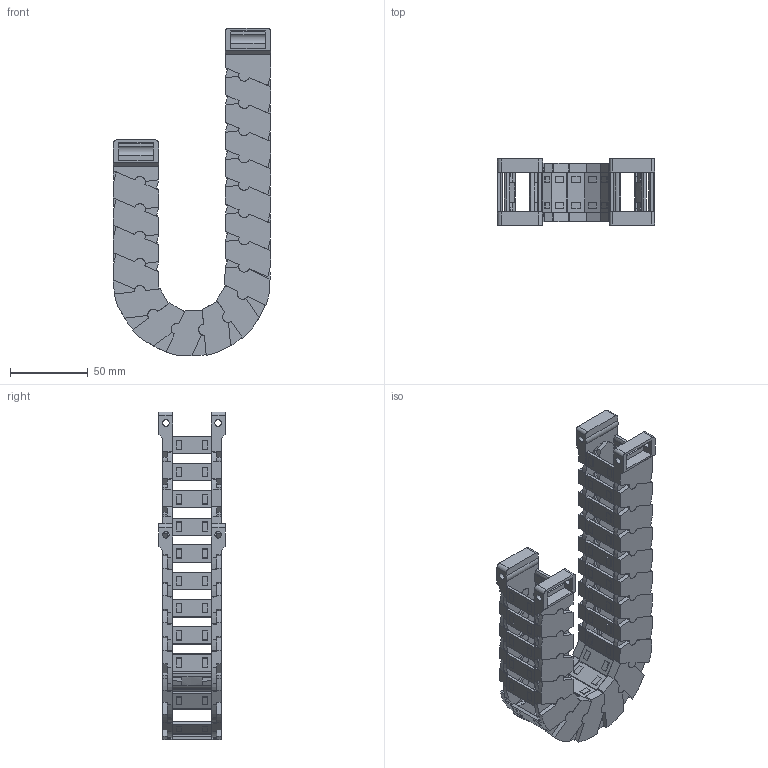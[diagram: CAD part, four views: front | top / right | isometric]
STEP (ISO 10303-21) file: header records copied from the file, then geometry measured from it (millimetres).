
FILE_DESCRIPTION(/* description */ (''),/* implementation_level */ '2;1');
FILE_NAME(/* name */ 'JY22-25-R35.stp',/* time_stamp */ '2026-06-20T14:12:24+08:00',/* author */ (''),/* organization */ (''),/* preprocessor_version */ 'ST-DEVELOPER v19.4',/* originating_system */ 'SIEMENS PLM Software NX2306.5001',/* authorisation */ '');
FILE_SCHEMA (('AP203_CONFIGURATION_CONTROLLED_3D_DESIGN_OF_MECHANICAL_PARTS_AND_ASSEMBLIES_MIM_LF { 1 0 10303 403 2 1 2}'));
Products named in the file (1): 简易图纸_objects
Bounding box: 100.88 x 42.5 x 210.31 mm (x, y, z)
Volume: 136453 mm3; surface area: 121754.9 mm2
Topology: 19 solids, 19 shells, 3140 faces, 10162 edges, 6766 vertices
Faces by surface type: plane 2354, cylinder 502, cone 144, bspline 140
Full cylindrical faces by diameter (mm): 4.2 x8, 7 x36, 7.1 x36
Entity records: 116691 total; most frequent: CARTESIAN_POINT 27541, ORIENTED_EDGE 20004, DIRECTION 17282, EDGE_CURVE 10002, LINE 6856, VECTOR 6856, VERTEX_POINT 6686, AXIS2_PLACEMENT_3D 5213
